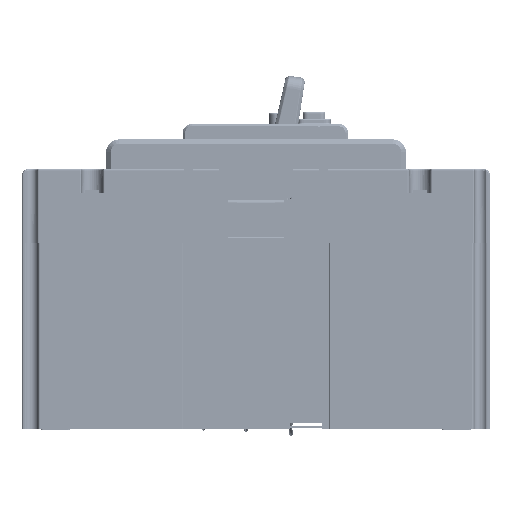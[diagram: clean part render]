
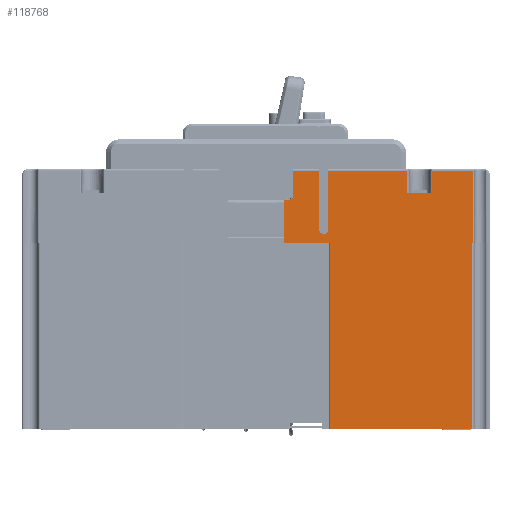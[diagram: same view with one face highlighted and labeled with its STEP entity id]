
A CAD part, left-side view. The second image highlights one B-rep face of the part: STEP entity #118768.
In plain terms, the highlighted planar face has unit normal (-1, 0, 0).
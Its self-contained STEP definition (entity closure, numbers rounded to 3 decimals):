
#5434=DIRECTION('',(0.,1.,0.));
#5435=VECTOR('',#5434,8.);
#5436=CARTESIAN_POINT('',(-46.,-56.5,16.));
#5437=LINE('',#5436,#5435);
#5501=DIRECTION('',(0.,0.,-1.));
#5502=VECTOR('',#5501,59.5);
#5503=CARTESIAN_POINT('',(-46.,-23.75,0.));
#5504=LINE('',#5503,#5502);
#5505=DIRECTION('',(0.,0.,1.));
#5506=VECTOR('',#5505,14.);
#5507=CARTESIAN_POINT('',(-46.,-8.9,0.));
#5508=LINE('',#5507,#5506);
#5509=DIRECTION('',(0.,1.,0.));
#5510=VECTOR('',#5509,1.6);
#5511=CARTESIAN_POINT('',(-46.,-10.5,14.));
#5512=LINE('',#5511,#5510);
#5513=DIRECTION('',(0.,0.,-1.));
#5514=VECTOR('',#5513,7.8);
#5515=CARTESIAN_POINT('',(-46.,-12.,23.3));
#5516=LINE('',#5515,#5514);
#5517=DIRECTION('',(0.,-1.,0.));
#5518=VECTOR('',#5517,8.2);
#5519=CARTESIAN_POINT('',(-46.,-12.,23.3));
#5520=LINE('',#5519,#5518);
#5521=DIRECTION('',(0.,0.,-1.));
#5522=VECTOR('',#5521,18.8);
#5523=CARTESIAN_POINT('',(-46.,-20.2,23.3));
#5524=LINE('',#5523,#5522);
#5525=CARTESIAN_POINT('',(-46.,-21.7,4.5));
#5526=DIRECTION('',(-1.,0.,0.));
#5527=DIRECTION('',(0.,1.,0.));
#5528=AXIS2_PLACEMENT_3D('',#5525,#5526,#5527);
#5530=DIRECTION('',(0.,0.,-1.));
#5531=VECTOR('',#5530,18.8);
#5532=CARTESIAN_POINT('',(-46.,-23.2,23.3));
#5533=LINE('',#5532,#5531);
#5534=DIRECTION('',(0.,1.,0.));
#5535=VECTOR('',#5534,25.3);
#5536=CARTESIAN_POINT('',(-46.,-48.5,23.3));
#5537=LINE('',#5536,#5535);
#5538=DIRECTION('',(0.,0.,1.));
#5539=VECTOR('',#5538,7.3);
#5540=CARTESIAN_POINT('',(-46.,-48.5,16.));
#5541=LINE('',#5540,#5539);
#5542=DIRECTION('',(0.,0.,-1.));
#5543=VECTOR('',#5542,7.3);
#5544=CARTESIAN_POINT('',(-46.,-56.5,23.3));
#5545=LINE('',#5544,#5543);
#5546=DIRECTION('',(0.,1.,0.));
#5547=VECTOR('',#5546,13.051);
#5548=CARTESIAN_POINT('',(-46.,-69.551,23.3));
#5549=LINE('',#5548,#5547);
#5550=DIRECTION('',(0.,0.,1.));
#5551=VECTOR('',#5550,23.3);
#5552=CARTESIAN_POINT('',(-46.,-69.551,0.));
#5553=LINE('',#5552,#5551);
#5554=DIRECTION('',(0.,0.,1.));
#5555=VECTOR('',#5554,59.5);
#5556=CARTESIAN_POINT('',(-46.,-69.296,-59.5));
#5557=LINE('',#5556,#5555);
#5579=DIRECTION('',(0.,-1.,0.));
#5580=VECTOR('',#5579,14.85);
#5581=CARTESIAN_POINT('',(-46.,-8.9,0.));
#5582=LINE('',#5581,#5580);
#5734=DIRECTION('',(0.,-1.,0.));
#5735=VECTOR('',#5734,45.546);
#5736=CARTESIAN_POINT('',(-46.,-23.75,-59.5));
#5737=LINE('',#5736,#5735);
#11609=CARTESIAN_POINT('',(-46.,-10.5,15.5));
#11610=DIRECTION('',(1.,0.,0.));
#11611=DIRECTION('',(0.,-1.,0.));
#11612=AXIS2_PLACEMENT_3D('',#11609,#11610,#11611);
#84777=DIRECTION('',(0.,-1.,0.));
#84778=VECTOR('',#84777,0.255);
#84779=CARTESIAN_POINT('',(-46.,-69.296,0.));
#84780=LINE('',#84779,#84778);
#92277=CARTESIAN_POINT('',(-46.,-69.296,-59.5));
#92279=VERTEX_POINT('',#92277);
#92356=CARTESIAN_POINT('',(-46.,-23.75,-59.5));
#92358=VERTEX_POINT('',#92356);
#95827=CARTESIAN_POINT('',(-46.,-20.2,4.5));
#95828=CARTESIAN_POINT('',(-46.,-23.2,4.5));
#95829=VERTEX_POINT('',#95827);
#95830=VERTEX_POINT('',#95828);
#96109=CARTESIAN_POINT('',(-46.,-12.,23.3));
#96110=CARTESIAN_POINT('',(-46.,-20.2,23.3));
#96111=VERTEX_POINT('',#96109);
#96112=VERTEX_POINT('',#96110);
#96383=CARTESIAN_POINT('',(-46.,-48.5,23.3));
#96384=CARTESIAN_POINT('',(-46.,-23.2,23.3));
#96385=VERTEX_POINT('',#96383);
#96386=VERTEX_POINT('',#96384);
#96403=CARTESIAN_POINT('',(-46.,-56.5,23.3));
#96404=VERTEX_POINT('',#96403);
#96405=CARTESIAN_POINT('',(-46.,-69.551,23.3));
#96406=VERTEX_POINT('',#96405);
#96433=CARTESIAN_POINT('',(-46.,-48.5,16.));
#96434=VERTEX_POINT('',#96433);
#96435=CARTESIAN_POINT('',(-46.,-56.5,16.));
#96436=VERTEX_POINT('',#96435);
#96678=CARTESIAN_POINT('',(-46.,-69.551,0.));
#96680=VERTEX_POINT('',#96678);
#97697=CARTESIAN_POINT('',(-46.,-8.9,0.));
#97698=CARTESIAN_POINT('',(-46.,-8.9,14.));
#97699=VERTEX_POINT('',#97697);
#97700=VERTEX_POINT('',#97698);
#98526=CARTESIAN_POINT('',(-46.,-10.5,14.));
#98528=VERTEX_POINT('',#98526);
#98533=CARTESIAN_POINT('',(-46.,-12.,15.5));
#98534=VERTEX_POINT('',#98533);
#100852=CARTESIAN_POINT('',(-46.,-69.296,0.));
#100853=VERTEX_POINT('',#100852);
#100856=CARTESIAN_POINT('',(-46.,-23.75,0.));
#100857=VERTEX_POINT('',#100856);
#118725=CARTESIAN_POINT('',(-46.,75.,0.));
#118726=DIRECTION('',(-1.,0.,0.));
#118727=DIRECTION('',(0.,-1.,0.));
#118728=AXIS2_PLACEMENT_3D('',#118725,#118726,#118727);
#118729=PLANE('',#118728);
#118731=ORIENTED_EDGE('',*,*,#118730,.F.);
#118733=ORIENTED_EDGE('',*,*,#118732,.F.);
#118735=ORIENTED_EDGE('',*,*,#118734,.T.);
#118737=ORIENTED_EDGE('',*,*,#118736,.F.);
#118739=ORIENTED_EDGE('',*,*,#118738,.F.);
#118741=ORIENTED_EDGE('',*,*,#118740,.F.);
#118743=ORIENTED_EDGE('',*,*,#118742,.T.);
#118745=ORIENTED_EDGE('',*,*,#118744,.T.);
#118747=ORIENTED_EDGE('',*,*,#118746,.T.);
#118749=ORIENTED_EDGE('',*,*,#118748,.F.);
#118751=ORIENTED_EDGE('',*,*,#118750,.F.);
#118752=ORIENTED_EDGE('',*,*,#118720,.F.);
#118753=ORIENTED_EDGE('',*,*,#118637,.F.);
#118755=ORIENTED_EDGE('',*,*,#118754,.F.);
#118757=ORIENTED_EDGE('',*,*,#118756,.F.);
#118759=ORIENTED_EDGE('',*,*,#118758,.F.);
#118761=ORIENTED_EDGE('',*,*,#118760,.F.);
#118763=ORIENTED_EDGE('',*,*,#118762,.F.);
#118765=ORIENTED_EDGE('',*,*,#118764,.F.);
#118766=EDGE_LOOP('',(#118731,#118733,#118735,#118737,#118739,#118741,#118743,
#118745,#118747,#118749,#118751,#118752,#118753,#118755,#118757,#118759,#118761,
#118763,#118765));
#118767=FACE_OUTER_BOUND('',#118766,.F.);
#118768=ADVANCED_FACE('',(#118767),#118729,.T.);
#5529=CIRCLE('',#5528,1.5);
#11613=CIRCLE('',#11612,1.5);
#118637=EDGE_CURVE('',#96436,#96434,#5437,.T.);
#118720=EDGE_CURVE('',#96434,#96385,#5541,.T.);
#118730=EDGE_CURVE('',#100857,#92358,#5504,.T.);
#118732=EDGE_CURVE('',#97699,#100857,#5582,.T.);
#118734=EDGE_CURVE('',#97699,#97700,#5508,.T.);
#118736=EDGE_CURVE('',#98528,#97700,#5512,.T.);
#118738=EDGE_CURVE('',#98534,#98528,#11613,.T.);
#118740=EDGE_CURVE('',#96111,#98534,#5516,.T.);
#118742=EDGE_CURVE('',#96111,#96112,#5520,.T.);
#118744=EDGE_CURVE('',#96112,#95829,#5524,.T.);
#118746=EDGE_CURVE('',#95829,#95830,#5529,.T.);
#118748=EDGE_CURVE('',#96386,#95830,#5533,.T.);
#118750=EDGE_CURVE('',#96385,#96386,#5537,.T.);
#118754=EDGE_CURVE('',#96404,#96436,#5545,.T.);
#118756=EDGE_CURVE('',#96406,#96404,#5549,.T.);
#118758=EDGE_CURVE('',#96680,#96406,#5553,.T.);
#118760=EDGE_CURVE('',#100853,#96680,#84780,.T.);
#118762=EDGE_CURVE('',#92279,#100853,#5557,.T.);
#118764=EDGE_CURVE('',#92358,#92279,#5737,.T.);
